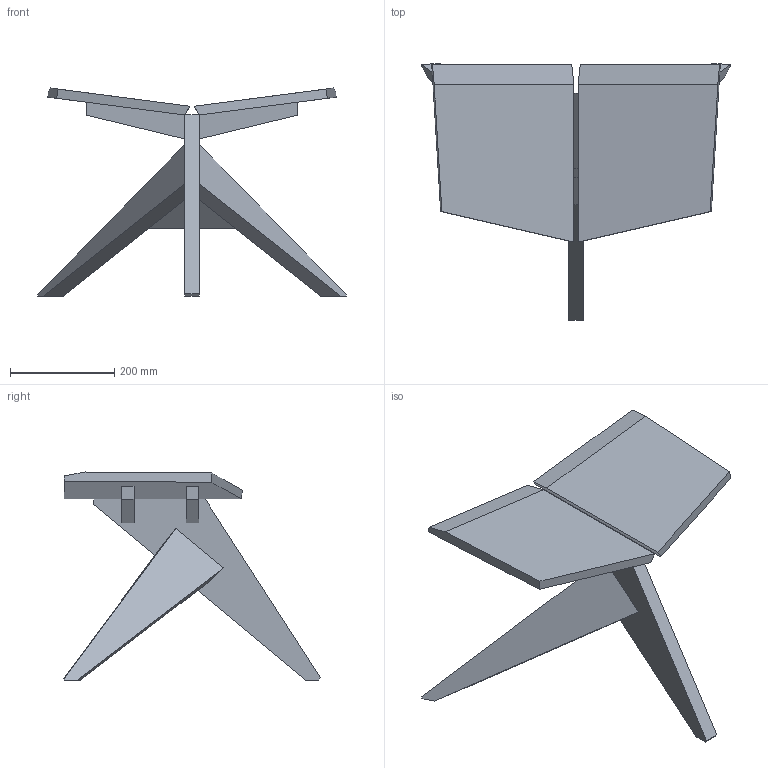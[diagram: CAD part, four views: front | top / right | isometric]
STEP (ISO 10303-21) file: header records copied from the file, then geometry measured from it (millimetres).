
FILE_DESCRIPTION(/* description */ (''),/* implementation_level */ '2;1');
FILE_NAME(/* name */ 'MC04_M~1',/* time_stamp */ '2021-04-10T10:37:04+02:00',/* author */ (''),/* organization */ (''),/* preprocessor_version */ 'ST-DEVELOPER v16.5',/* originating_system */ '',/* authorisation */ '');
FILE_SCHEMA (('AUTOMOTIVE_DESIGN'));
Length unit declared in the file: millimetre
Products named in the file (1): Document
Bounding box: 594.36 x 493.43 x 399.87 mm (x, y, z)
Surface area: 749305.6 mm2 (no closed solid volume)
Topology: 0 solids, 55 shells, 55 faces, 262 edges, 264 vertices
Faces by surface type: bspline 55
Entity records: 4922 total; most frequent: CARTESIAN_POINT 2425, B_SPLINE_CURVE_WITH_KNOTS 522, ORIENTED_EDGE 260, PCURVE 260, DEFINITIONAL_REPRESENTATION 260, SURFACE_CURVE 260, EDGE_CURVE 260, VERTEX_POINT 260
